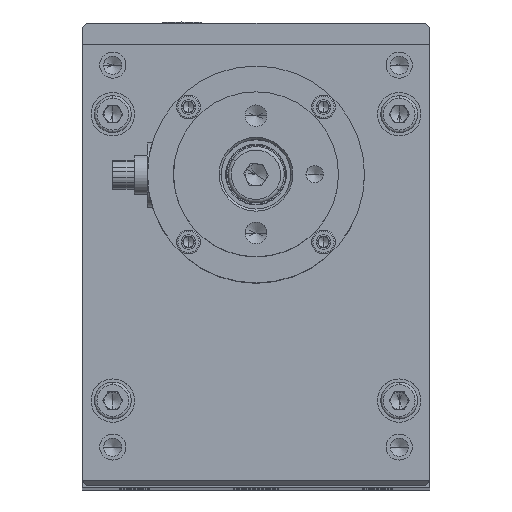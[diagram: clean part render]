
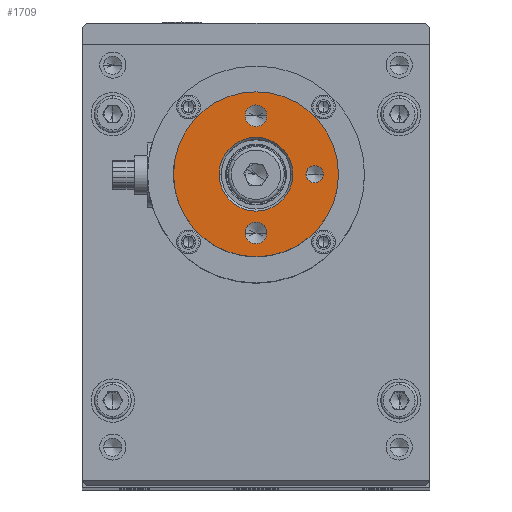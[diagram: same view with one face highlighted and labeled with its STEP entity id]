
A CAD part, top view. The second image highlights one B-rep face of the part: STEP entity #1709.
In plain terms, the highlighted planar face has unit normal (0, 0, 1).
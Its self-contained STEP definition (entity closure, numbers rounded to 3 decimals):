
#84 = AXIS2_PLACEMENT_3D ( 'NONE', #16495, #9042, #6944 ) ;
#228 = AXIS2_PLACEMENT_3D ( 'NONE', #24298, #17136, #4445 ) ;
#235 = EDGE_CURVE ( 'NONE', #21238, #1981, #16166, .T. ) ;
#361 = DIRECTION ( 'NONE',  ( 0., 0., 1. ) ) ;
#1129 = FACE_BOUND ( 'NONE', #6724, .T. ) ;
#1611 = DIRECTION ( 'NONE',  ( 0., 0., 1. ) ) ;
#1709 = ADVANCED_FACE ( 'NONE', ( #18364, #1129, #23115, #3894, #15676 ), #26091, .T. ) ;
#1981 = VERTEX_POINT ( 'NONE', #12372 ) ;
#2045 = EDGE_CURVE ( 'NONE', #12388, #11520, #4245, .T. ) ;
#2085 = CARTESIAN_POINT ( 'NONE',  ( 55.443, 104.281, 388.172 ) ) ;
#3014 = ORIENTED_EDGE ( 'NONE', *, *, #17627, .F. ) ;
#3702 = DIRECTION ( 'NONE',  ( 0., 0., 1. ) ) ;
#3709 = DIRECTION ( 'NONE',  ( 0., 0., 1. ) ) ;
#3894 = FACE_BOUND ( 'NONE', #6192, .T. ) ;
#4245 = CIRCLE ( 'NONE', #9805, 2.5 ) ;
#4331 = DIRECTION ( 'NONE',  ( -1., 0., 0. ) ) ;
#4445 = DIRECTION ( 'NONE',  ( -1., 0., 0. ) ) ;
#4555 = DIRECTION ( 'NONE',  ( 0., 0., -1. ) ) ;
#4571 = CIRCLE ( 'NONE', #84, 2. ) ;
#4892 = CARTESIAN_POINT ( 'NONE',  ( 57.943, 90.781, 388.172 ) ) ;
#5203 = EDGE_LOOP ( 'NONE', ( #23479, #6414 ) ) ;
#6085 = EDGE_CURVE ( 'NONE', #11520, #12388, #22874, .T. ) ;
#6192 = EDGE_LOOP ( 'NONE', ( #7747, #32106 ) ) ;
#6414 = ORIENTED_EDGE ( 'NONE', *, *, #14646, .F. ) ;
#6695 = AXIS2_PLACEMENT_3D ( 'NONE', #29154, #1611, #19135 ) ;
#6724 = EDGE_LOOP ( 'NONE', ( #17919, #7656 ) ) ;
#6944 = DIRECTION ( 'NONE',  ( -1., 0., 0. ) ) ;
#7383 = AXIS2_PLACEMENT_3D ( 'NONE', #24180, #9163, #4331 ) ;
#7626 = EDGE_LOOP ( 'NONE', ( #26330, #29868 ) ) ;
#7656 = ORIENTED_EDGE ( 'NONE', *, *, #6085, .F. ) ;
#7747 = ORIENTED_EDGE ( 'NONE', *, *, #23953, .T. ) ;
#8008 = CIRCLE ( 'NONE', #15365, 8.5 ) ;
#8019 = DIRECTION ( 'NONE',  ( -1., 0., 0. ) ) ;
#9042 = DIRECTION ( 'NONE',  ( 0., 0., 1. ) ) ;
#9163 = DIRECTION ( 'NONE',  ( 0., 0., 1. ) ) ;
#9611 = CARTESIAN_POINT ( 'NONE',  ( 57.943, 90.781, 388.172 ) ) ;
#9805 = AXIS2_PLACEMENT_3D ( 'NONE', #30746, #361, #8019 ) ;
#9981 = VERTEX_POINT ( 'NONE', #13975 ) ;
#10371 = CARTESIAN_POINT ( 'NONE',  ( 66.443, 90.781, 388.172 ) ) ;
#11085 = DIRECTION ( 'NONE',  ( -1., 0., 0. ) ) ;
#11150 = VERTEX_POINT ( 'NONE', #24098 ) ;
#11520 = VERTEX_POINT ( 'NONE', #20889 ) ;
#12372 = CARTESIAN_POINT ( 'NONE',  ( 69.443, 90.781, 388.172 ) ) ;
#12388 = VERTEX_POINT ( 'NONE', #2085 ) ;
#12854 = CIRCLE ( 'NONE', #228, 8.5 ) ;
#13934 = DIRECTION ( 'NONE',  ( -1., 0., 0. ) ) ;
#13975 = CARTESIAN_POINT ( 'NONE',  ( 55.443, 77.281, 388.172 ) ) ;
#14349 = DIRECTION ( 'NONE',  ( 1., 0., 0. ) ) ;
#14646 = EDGE_CURVE ( 'NONE', #11150, #9981, #28328, .T. ) ;
#14696 = DIRECTION ( 'NONE',  ( -1., 0., 0. ) ) ;
#14842 = CARTESIAN_POINT ( 'NONE',  ( 57.943, 90.781, 388.172 ) ) ;
#15365 = AXIS2_PLACEMENT_3D ( 'NONE', #14842, #24590, #17433 ) ;
#15382 = VERTEX_POINT ( 'NONE', #30448 ) ;
#15418 = AXIS2_PLACEMENT_3D ( 'NONE', #4892, #27273, #30034 ) ;
#15676 = FACE_OUTER_BOUND ( 'NONE', #7626, .T. ) ;
#16134 = CIRCLE ( 'NONE', #25556, 19. ) ;
#16166 = CIRCLE ( 'NONE', #19991, 2. ) ;
#16495 = CARTESIAN_POINT ( 'NONE',  ( 71.443, 90.781, 388.172 ) ) ;
#17136 = DIRECTION ( 'NONE',  ( 0., 0., -1. ) ) ;
#17161 = VERTEX_POINT ( 'NONE', #30855 ) ;
#17257 = EDGE_CURVE ( 'NONE', #15382, #21434, #27791, .T. ) ;
#17433 = DIRECTION ( 'NONE',  ( -1., 0., 0. ) ) ;
#17627 = EDGE_CURVE ( 'NONE', #1981, #21238, #4571, .T. ) ;
#17919 = ORIENTED_EDGE ( 'NONE', *, *, #2045, .F. ) ;
#18219 = ORIENTED_EDGE ( 'NONE', *, *, #235, .F. ) ;
#18364 = FACE_BOUND ( 'NONE', #28769, .T. ) ;
#18810 = EDGE_CURVE ( 'NONE', #21434, #15382, #16134, .T. ) ;
#18988 = AXIS2_PLACEMENT_3D ( 'NONE', #23553, #3702, #11085 ) ;
#19135 = DIRECTION ( 'NONE',  ( -1., 0., 0. ) ) ;
#19991 = AXIS2_PLACEMENT_3D ( 'NONE', #31281, #3709, #13934 ) ;
#20889 = CARTESIAN_POINT ( 'NONE',  ( 60.443, 104.281, 388.172 ) ) ;
#20988 = CIRCLE ( 'NONE', #6695, 2.5 ) ;
#21238 = VERTEX_POINT ( 'NONE', #26914 ) ;
#21434 = VERTEX_POINT ( 'NONE', #25147 ) ;
#22242 = CARTESIAN_POINT ( 'NONE',  ( 57.943, 77.281, 388.172 ) ) ;
#22874 = CIRCLE ( 'NONE', #7383, 2.5 ) ;
#23115 = FACE_BOUND ( 'NONE', #5203, .T. ) ;
#23479 = ORIENTED_EDGE ( 'NONE', *, *, #32102, .F. ) ;
#23553 = CARTESIAN_POINT ( 'NONE',  ( 65.943, 90.781, 388.172 ) ) ;
#23953 = EDGE_CURVE ( 'NONE', #17161, #24248, #12854, .T. ) ;
#24098 = CARTESIAN_POINT ( 'NONE',  ( 60.443, 77.281, 388.172 ) ) ;
#24180 = CARTESIAN_POINT ( 'NONE',  ( 57.943, 104.281, 388.172 ) ) ;
#24248 = VERTEX_POINT ( 'NONE', #10371 ) ;
#24298 = CARTESIAN_POINT ( 'NONE',  ( 57.943, 90.781, 388.172 ) ) ;
#24590 = DIRECTION ( 'NONE',  ( 0., 0., -1. ) ) ;
#24993 = DIRECTION ( 'NONE',  ( 0., 0., 1. ) ) ;
#25147 = CARTESIAN_POINT ( 'NONE',  ( 38.943, 90.781, 388.172 ) ) ;
#25472 = EDGE_CURVE ( 'NONE', #24248, #17161, #8008, .T. ) ;
#25556 = AXIS2_PLACEMENT_3D ( 'NONE', #9611, #4555, #14349 ) ;
#26091 = PLANE ( 'NONE',  #18988 ) ;
#26330 = ORIENTED_EDGE ( 'NONE', *, *, #17257, .F. ) ;
#26914 = CARTESIAN_POINT ( 'NONE',  ( 73.443, 90.781, 388.172 ) ) ;
#27273 = DIRECTION ( 'NONE',  ( 0., 0., -1. ) ) ;
#27791 = CIRCLE ( 'NONE', #15418, 19. ) ;
#28328 = CIRCLE ( 'NONE', #30454, 2.5 ) ;
#28769 = EDGE_LOOP ( 'NONE', ( #3014, #18219 ) ) ;
#29154 = CARTESIAN_POINT ( 'NONE',  ( 57.943, 77.281, 388.172 ) ) ;
#29868 = ORIENTED_EDGE ( 'NONE', *, *, #18810, .F. ) ;
#30034 = DIRECTION ( 'NONE',  ( 1., 0., 0. ) ) ;
#30448 = CARTESIAN_POINT ( 'NONE',  ( 76.943, 90.781, 388.172 ) ) ;
#30454 = AXIS2_PLACEMENT_3D ( 'NONE', #22242, #24993, #14696 ) ;
#30746 = CARTESIAN_POINT ( 'NONE',  ( 57.943, 104.281, 388.172 ) ) ;
#30855 = CARTESIAN_POINT ( 'NONE',  ( 49.443, 90.781, 388.172 ) ) ;
#31281 = CARTESIAN_POINT ( 'NONE',  ( 71.443, 90.781, 388.172 ) ) ;
#32102 = EDGE_CURVE ( 'NONE', #9981, #11150, #20988, .T. ) ;
#32106 = ORIENTED_EDGE ( 'NONE', *, *, #25472, .T. ) ;
